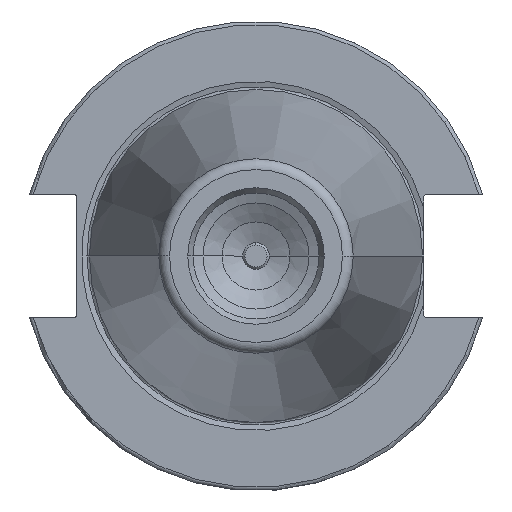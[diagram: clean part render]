
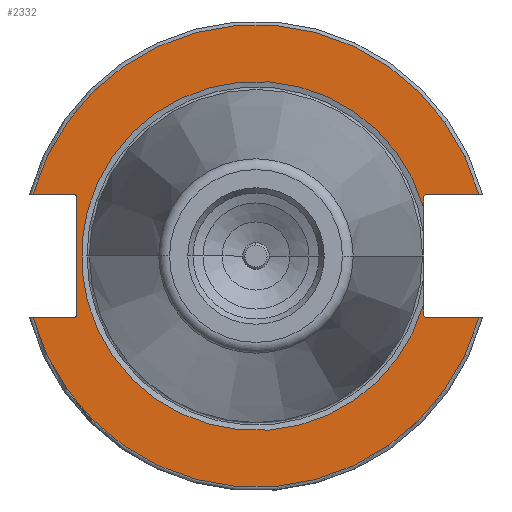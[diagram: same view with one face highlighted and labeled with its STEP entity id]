
A CAD part, left-side view. The second image highlights one B-rep face of the part: STEP entity #2332.
In plain terms, the highlighted planar face has unit normal (-1, 0, 0).
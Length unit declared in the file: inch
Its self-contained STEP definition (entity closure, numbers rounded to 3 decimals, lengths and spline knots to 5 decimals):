
#5 = ORIENTED_EDGE ( 'NONE', *, *, #1525, .T. ) ;
#15 = EDGE_CURVE ( 'NONE', #4260, #522, #4731, .T. ) ;
#40 = CARTESIAN_POINT ( 'NONE',  ( 0.125, -1.83806, -0.51 ) ) ;
#44 = ORIENTED_EDGE ( 'NONE', *, *, #1274, .T. ) ;
#47 = DIRECTION ( 'NONE',  ( 1., 0., 0. ) ) ;
#94 = CARTESIAN_POINT ( 'NONE',  ( 0.125, 1.5075, 0.51 ) ) ;
#126 = VERTEX_POINT ( 'NONE', #7081 ) ;
#184 = DIRECTION ( 'NONE',  ( 0., 1., 0. ) ) ;
#201 = CARTESIAN_POINT ( 'NONE',  ( 0.125, -1.4125, 0.51 ) ) ;
#261 = VERTEX_POINT ( 'NONE', #7389 ) ;
#373 = AXIS2_PLACEMENT_3D ( 'NONE', #3755, #839, #1282 ) ;
#400 = CARTESIAN_POINT ( 'NONE',  ( 0.125, 0., 0.51 ) ) ;
#522 = VERTEX_POINT ( 'NONE', #3741 ) ;
#569 = EDGE_CURVE ( 'NONE', #4629, #2980, #2415, .T. ) ;
#643 = ORIENTED_EDGE ( 'NONE', *, *, #15, .F. ) ;
#644 = DIRECTION ( 'NONE',  ( 0., -1., 0. ) ) ;
#703 = PLANE ( 'NONE',  #1480 ) ;
#829 = CARTESIAN_POINT ( 'NONE',  ( 0.125, 0., 1.9075 ) ) ;
#839 = DIRECTION ( 'NONE',  ( 1., 0., 0. ) ) ;
#904 = CIRCLE ( 'NONE', #1878, 1.43979 ) ;
#1014 = EDGE_LOOP ( 'NONE', ( #3037, #2186, #2940, #5, #5796, #2554, #2215, #44, #4886, #6740, #643, #3588, #5233, #6560 ) ) ;
#1116 = VERTEX_POINT ( 'NONE', #5343 ) ;
#1232 = CARTESIAN_POINT ( 'NONE',  ( 0.125, 0., 0. ) ) ;
#1274 = EDGE_CURVE ( 'NONE', #261, #6110, #6316, .T. ) ;
#1282 = DIRECTION ( 'NONE',  ( 0., -1., 0. ) ) ;
#1308 = CIRCLE ( 'NONE', #2020, 0.03 ) ;
#1480 = AXIS2_PLACEMENT_3D ( 'NONE', #829, #7187, #3886 ) ;
#1506 = CARTESIAN_POINT ( 'NONE',  ( 0.125, -1.3825, 1.9075 ) ) ;
#1521 = CARTESIAN_POINT ( 'NONE',  ( 0.125, 0., 0.51 ) ) ;
#1525 = EDGE_CURVE ( 'NONE', #2642, #1792, #4779, .T. ) ;
#1625 = LINE ( 'NONE', #6995, #4105 ) ;
#1741 = CARTESIAN_POINT ( 'NONE',  ( 0.125, -1.3825, -0.48 ) ) ;
#1754 = EDGE_CURVE ( 'NONE', #522, #126, #2404, .T. ) ;
#1767 = EDGE_CURVE ( 'NONE', #4260, #1116, #1308, .T. ) ;
#1792 = VERTEX_POINT ( 'NONE', #1741 ) ;
#1878 = AXIS2_PLACEMENT_3D ( 'NONE', #3657, #5483, #184 ) ;
#1927 = CARTESIAN_POINT ( 'NONE',  ( 0.125, 0., -0.51 ) ) ;
#2020 = AXIS2_PLACEMENT_3D ( 'NONE', #6427, #3004, #6983 ) ;
#2089 = VECTOR ( 'NONE', #2095, 39.37008 ) ;
#2095 = DIRECTION ( 'NONE',  ( 0., 0., 1. ) ) ;
#2186 = ORIENTED_EDGE ( 'NONE', *, *, #2705, .F. ) ;
#2215 = ORIENTED_EDGE ( 'NONE', *, *, #3717, .T. ) ;
#2225 = CARTESIAN_POINT ( 'NONE',  ( 0.125, 1.4775, -0.48 ) ) ;
#2332 = ADVANCED_FACE ( 'NONE', ( #5265 ), #703, .T. ) ;
#2372 = DIRECTION ( 'NONE',  ( 0., 1., 0. ) ) ;
#2404 = CIRCLE ( 'NONE', #5814, 1.9075 ) ;
#2415 = CIRCLE ( 'NONE', #7113, 0.03 ) ;
#2554 = ORIENTED_EDGE ( 'NONE', *, *, #7207, .T. ) ;
#2626 = CARTESIAN_POINT ( 'NONE',  ( 0.125, 1.5075, -0.51 ) ) ;
#2642 = VERTEX_POINT ( 'NONE', #7020 ) ;
#2705 = EDGE_CURVE ( 'NONE', #5928, #4416, #4088, .T. ) ;
#2724 = EDGE_CURVE ( 'NONE', #5928, #2642, #3910, .T. ) ;
#2758 = DIRECTION ( 'NONE',  ( 1., 0., 0. ) ) ;
#2921 = CARTESIAN_POINT ( 'NONE',  ( 0.125, -1.4125, -0.48 ) ) ;
#2940 = ORIENTED_EDGE ( 'NONE', *, *, #2724, .T. ) ;
#2972 = DIRECTION ( 'NONE',  ( 0., 1., 0. ) ) ;
#2980 = VERTEX_POINT ( 'NONE', #2626 ) ;
#3004 = DIRECTION ( 'NONE',  ( 1., 0., 0. ) ) ;
#3016 = DIRECTION ( 'NONE',  ( 0., 0., 1. ) ) ;
#3037 = ORIENTED_EDGE ( 'NONE', *, *, #7184, .F. ) ;
#3163 = VECTOR ( 'NONE', #6304, 39.37008 ) ;
#3248 = DIRECTION ( 'NONE',  ( 1., 0., 0. ) ) ;
#3368 = DIRECTION ( 'NONE',  ( 0., 1., 0. ) ) ;
#3588 = ORIENTED_EDGE ( 'NONE', *, *, #1767, .T. ) ;
#3657 = CARTESIAN_POINT ( 'NONE',  ( 0.125, 0., 0. ) ) ;
#3717 = EDGE_CURVE ( 'NONE', #5049, #261, #6790, .T. ) ;
#3741 = CARTESIAN_POINT ( 'NONE',  ( 0.125, 1.83806, 0.51 ) ) ;
#3755 = CARTESIAN_POINT ( 'NONE',  ( 0.125, -1.4125, 0.48 ) ) ;
#3761 = CARTESIAN_POINT ( 'NONE',  ( 0.125, 1.5075, -0.48 ) ) ;
#3782 = CARTESIAN_POINT ( 'NONE',  ( 0.125, 1.83806, -0.51 ) ) ;
#3833 = DIRECTION ( 'NONE',  ( 0., -1., 0. ) ) ;
#3886 = DIRECTION ( 'NONE',  ( 0., -1., 0. ) ) ;
#3910 = LINE ( 'NONE', #5864, #5628 ) ;
#3931 = AXIS2_PLACEMENT_3D ( 'NONE', #6251, #2758, #3368 ) ;
#4088 = CIRCLE ( 'NONE', #3931, 1.9075 ) ;
#4105 = VECTOR ( 'NONE', #3016, 39.37008 ) ;
#4110 = DIRECTION ( 'NONE',  ( 1., 0., 0. ) ) ;
#4162 = AXIS2_PLACEMENT_3D ( 'NONE', #2921, #4110, #644 ) ;
#4260 = VERTEX_POINT ( 'NONE', #94 ) ;
#4416 = VERTEX_POINT ( 'NONE', #3782 ) ;
#4629 = VERTEX_POINT ( 'NONE', #2225 ) ;
#4650 = CARTESIAN_POINT ( 'NONE',  ( 0.125, -1.3825, 0.40209 ) ) ;
#4731 = LINE ( 'NONE', #1521, #6011 ) ;
#4779 = CIRCLE ( 'NONE', #4162, 0.03 ) ;
#4829 = DIRECTION ( 'NONE',  ( 0., -1., 0. ) ) ;
#4886 = ORIENTED_EDGE ( 'NONE', *, *, #5771, .T. ) ;
#5012 = DIRECTION ( 'NONE',  ( 0., -1., 0. ) ) ;
#5049 = VERTEX_POINT ( 'NONE', #4650 ) ;
#5233 = ORIENTED_EDGE ( 'NONE', *, *, #6622, .F. ) ;
#5242 = CARTESIAN_POINT ( 'NONE',  ( 0.125, -1.3825, 1.9075 ) ) ;
#5265 = FACE_OUTER_BOUND ( 'NONE', #1014, .T. ) ;
#5343 = CARTESIAN_POINT ( 'NONE',  ( 0.125, 1.4775, 0.48 ) ) ;
#5470 = LINE ( 'NONE', #1927, #6449 ) ;
#5483 = DIRECTION ( 'NONE',  ( 1., 0., 0. ) ) ;
#5628 = VECTOR ( 'NONE', #2372, 39.37008 ) ;
#5771 = EDGE_CURVE ( 'NONE', #6110, #126, #6663, .T. ) ;
#5796 = ORIENTED_EDGE ( 'NONE', *, *, #6762, .T. ) ;
#5814 = AXIS2_PLACEMENT_3D ( 'NONE', #1232, #47, #2972 ) ;
#5864 = CARTESIAN_POINT ( 'NONE',  ( 0.125, 0., -0.51 ) ) ;
#5928 = VERTEX_POINT ( 'NONE', #40 ) ;
#5989 = VERTEX_POINT ( 'NONE', #6952 ) ;
#6011 = VECTOR ( 'NONE', #6179, 39.37008 ) ;
#6110 = VERTEX_POINT ( 'NONE', #201 ) ;
#6179 = DIRECTION ( 'NONE',  ( 0., 1., 0. ) ) ;
#6251 = CARTESIAN_POINT ( 'NONE',  ( 0.125, 0., 0. ) ) ;
#6304 = DIRECTION ( 'NONE',  ( 0., 0., 1. ) ) ;
#6316 = CIRCLE ( 'NONE', #373, 0.03 ) ;
#6427 = CARTESIAN_POINT ( 'NONE',  ( 0.125, 1.5075, 0.48 ) ) ;
#6449 = VECTOR ( 'NONE', #4829, 39.37008 ) ;
#6560 = ORIENTED_EDGE ( 'NONE', *, *, #569, .T. ) ;
#6622 = EDGE_CURVE ( 'NONE', #4629, #1116, #1625, .T. ) ;
#6663 = LINE ( 'NONE', #400, #7019 ) ;
#6740 = ORIENTED_EDGE ( 'NONE', *, *, #1754, .F. ) ;
#6762 = EDGE_CURVE ( 'NONE', #1792, #5989, #6896, .T. ) ;
#6790 = LINE ( 'NONE', #5242, #3163 ) ;
#6896 = LINE ( 'NONE', #1506, #2089 ) ;
#6952 = CARTESIAN_POINT ( 'NONE',  ( 0.125, -1.3825, -0.40209 ) ) ;
#6983 = DIRECTION ( 'NONE',  ( 0., -1., 0. ) ) ;
#6995 = CARTESIAN_POINT ( 'NONE',  ( 0.125, 1.4775, 1.9075 ) ) ;
#7019 = VECTOR ( 'NONE', #5012, 39.37008 ) ;
#7020 = CARTESIAN_POINT ( 'NONE',  ( 0.125, -1.4125, -0.51 ) ) ;
#7081 = CARTESIAN_POINT ( 'NONE',  ( 0.125, -1.83806, 0.51 ) ) ;
#7113 = AXIS2_PLACEMENT_3D ( 'NONE', #3761, #3248, #3833 ) ;
#7184 = EDGE_CURVE ( 'NONE', #4416, #2980, #5470, .T. ) ;
#7187 = DIRECTION ( 'NONE',  ( -1., 0., 0. ) ) ;
#7207 = EDGE_CURVE ( 'NONE', #5989, #5049, #904, .T. ) ;
#7389 = CARTESIAN_POINT ( 'NONE',  ( 0.125, -1.3825, 0.48 ) ) ;
